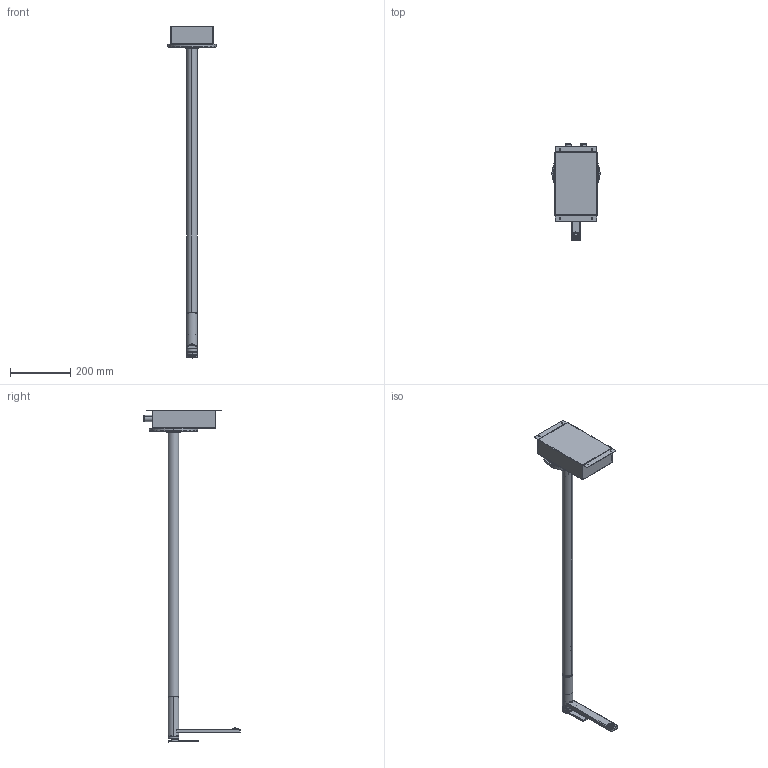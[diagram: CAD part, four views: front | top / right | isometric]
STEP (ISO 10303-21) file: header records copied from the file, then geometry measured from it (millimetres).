
FILE_DESCRIPTION (( 'STEP AP203' ), '1' );
FILE_NAME ('MAC19.STEP', '2024-01-24T09:27:59', ( '' ), ( '' ), 'SwSTEP 2.0', 'SolidWorks 2023', '' );
FILE_SCHEMA (( 'CONFIG_CONTROL_DESIGN' ));
Length unit declared in the file: millimetre
Products named in the file (25): C24.1860.00.0; AS776_00; MAC19; EU1280_0; EU0839_0; C12.00.0045; EU1279_1; C20.575135.00; C23.1018.01; C12.00.0028; EU1906_0; C10.00.0019; C24.1861.00.0; EU1946_0; PROLFEM006; C11.14.0004; AS785_00 X DISEGNI; EU1905_0; C21.2130.00.0; C24.1862.00.0; EU1947_0; C11.14.0008; C13.00.0014; EU1951_0; C24.1869.00.0
Assembly tree (26 placements, depth 3):
  MAC19
    EU1279_1
    EU0839_0
    PROLFEM006  x2
    AS776_00
      C24.1860.00.0
      C24.1869.00.0
      C20.575135.00
      C23.1018.01
      C24.1861.00.0
      C24.1862.00.0
      C12.00.0028
      C10.00.0019
      C13.00.0014
      C21.2130.00.0
      C12.00.0045
      C11.14.0004
    EU1946_0
    EU1947_0
    EU1951_0
    AS785_00 X DISEGNI
      EU1905_0
      EU1906_0
      EU1280_0  x2
    C11.14.0008
Bounding box: 160 x 319.51 x 1101.02 mm (x, y, z)
Volume: 777216.5 mm3; surface area: 567601.2 mm2
Topology: 27 solids, 27 shells, 1168 faces, 2812 edges, 1762 vertices
Faces by surface type: plane 534, cylinder 389, cone 155, torus 49, bspline 33, sphere 8
Entity records: 35611 total; most frequent: CARTESIAN_POINT 7340, DIRECTION 5596, ORIENTED_EDGE 5138, EDGE_CURVE 2569, AXIS2_PLACEMENT_3D 2099, VERTEX_POINT 1622, VECTOR 1398, LINE 1398
